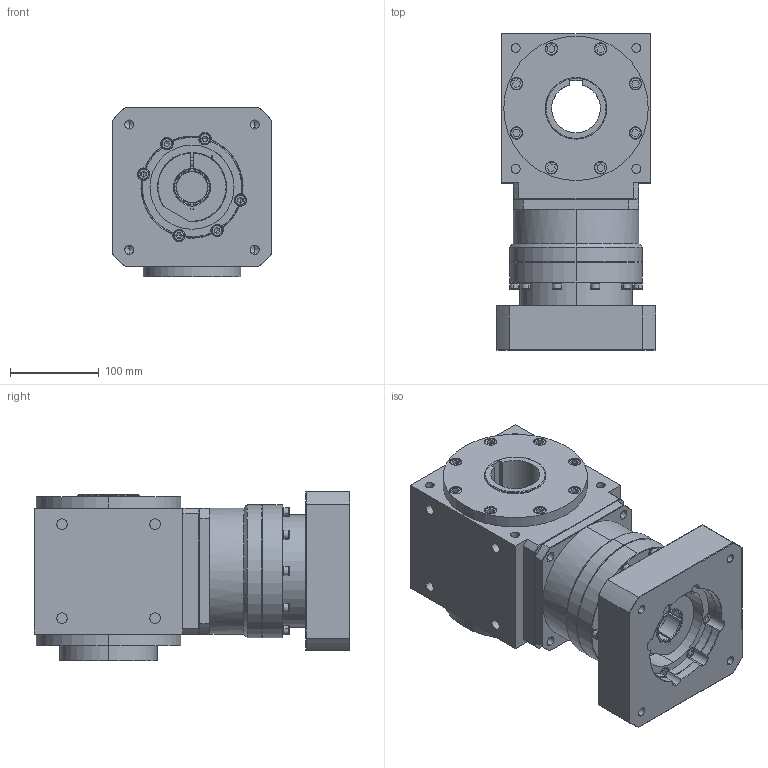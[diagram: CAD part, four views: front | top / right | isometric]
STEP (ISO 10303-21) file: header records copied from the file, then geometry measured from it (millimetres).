
FILE_DESCRIPTION (( 'STEP AP203' ), '1' );
FILE_NAME ('AAW165AS-L1-RFK 35-114.3-200-M12.STEP', '2024-12-24T08:44:53', ( '' ), ( '' ), 'SwSTEP 2.0', 'SolidWorks 2021', '' );
FILE_SCHEMA (( 'CONFIG_CONTROL_DESIGN' ));
Length unit declared in the file: millimetre
Products named in the file (3): AAW165AS-L1-RFK 35-114.3-200-M12; VRB-142-L1-S2-P1 35-114.3-200-M12; AAW165AS-RFK
Assembly tree (2 placements, depth 2):
  AAW165AS-L1-RFK 35-114.3-200-M12
    AAW165AS-RFK
    VRB-142-L1-S2-P1 35-114.3-200-M12
Bounding box: 180 x 356.5 x 191 mm (x, y, z)
Volume: 7691393.5 mm3; surface area: 562066.3 mm2
Topology: 40 solids, 40 shells, 1260 faces, 2979 edges, 1860 vertices
Faces by surface type: plane 610, cylinder 441, cone 173, torus 36
Entity records: 37067 total; most frequent: CARTESIAN_POINT 7356, DIRECTION 6510, ORIENTED_EDGE 5814, EDGE_CURVE 2907, AXIS2_PLACEMENT_3D 2508, VERTEX_POINT 1860, VECTOR 1494, LINE 1494
